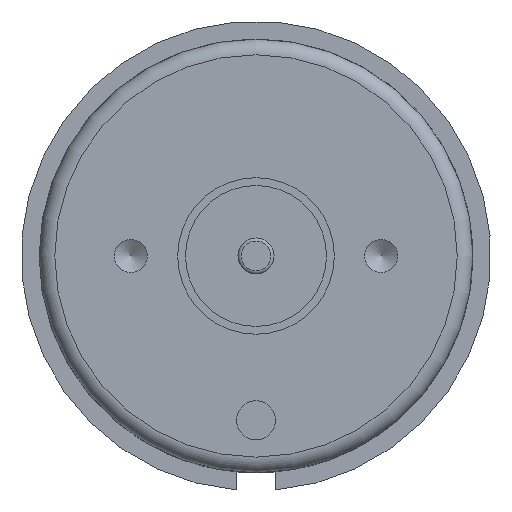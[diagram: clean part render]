
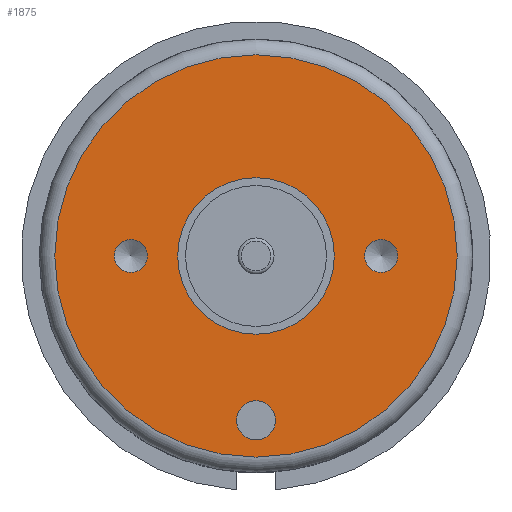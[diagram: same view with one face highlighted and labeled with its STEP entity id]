
A CAD part, front view. The second image highlights one B-rep face of the part: STEP entity #1875.
In plain terms, the highlighted planar face has unit normal (0, -1, 0).
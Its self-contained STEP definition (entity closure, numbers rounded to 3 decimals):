
#44=FACE_BOUND('',#442,.T.);
#45=FACE_BOUND('',#443,.T.);
#46=FACE_BOUND('',#444,.T.);
#47=FACE_BOUND('',#445,.T.);
#123=PLANE('',#2092);
#303=FACE_OUTER_BOUND('',#441,.T.);
#441=EDGE_LOOP('',(#1725));
#442=EDGE_LOOP('',(#1726));
#443=EDGE_LOOP('',(#1727));
#444=EDGE_LOOP('',(#1728));
#445=EDGE_LOOP('',(#1729));
#825=CIRCLE('',#2032,1.25);
#837=CIRCLE('',#2070,1.057);
#839=CIRCLE('',#2074,1.057);
#845=CIRCLE('',#2084,5.);
#846=CIRCLE('',#2087,12.85);
#970=VERTEX_POINT('',#3024);
#992=VERTEX_POINT('',#3114);
#995=VERTEX_POINT('',#3123);
#1000=VERTEX_POINT('',#3140);
#1001=VERTEX_POINT('',#3145);
#1184=EDGE_CURVE('',#970,#970,#825,.T.);
#1226=EDGE_CURVE('',#992,#992,#837,.T.);
#1230=EDGE_CURVE('',#995,#995,#839,.T.);
#1239=EDGE_CURVE('',#1000,#1000,#845,.T.);
#1240=EDGE_CURVE('',#1001,#1001,#846,.T.);
#1725=ORIENTED_EDGE('',*,*,#1240,.F.);
#1726=ORIENTED_EDGE('',*,*,#1184,.T.);
#1727=ORIENTED_EDGE('',*,*,#1226,.T.);
#1728=ORIENTED_EDGE('',*,*,#1230,.T.);
#1729=ORIENTED_EDGE('',*,*,#1239,.T.);
#1875=ADVANCED_FACE('',(#303,#44,#45,#46,#47),#123,.T.);
#2032=AXIS2_PLACEMENT_3D('',#3025,#2486,#2487);
#2070=AXIS2_PLACEMENT_3D('',#3115,#2592,#2593);
#2074=AXIS2_PLACEMENT_3D('',#3124,#2602,#2603);
#2084=AXIS2_PLACEMENT_3D('',#3142,#2625,#2626);
#2087=AXIS2_PLACEMENT_3D('',#3146,#2631,#2632);
#2092=AXIS2_PLACEMENT_3D('',#3155,#2643,#2644);
#2486=DIRECTION('center_axis',(0.,1.,0.));
#2487=DIRECTION('ref_axis',(-1.,0.,0.));
#2592=DIRECTION('center_axis',(0.,1.,0.));
#2593=DIRECTION('ref_axis',(1.,0.,0.));
#2602=DIRECTION('center_axis',(0.,1.,0.));
#2603=DIRECTION('ref_axis',(1.,0.,0.));
#2625=DIRECTION('center_axis',(0.,1.,0.));
#2626=DIRECTION('ref_axis',(-1.,0.,0.));
#2631=DIRECTION('center_axis',(0.,1.,0.));
#2632=DIRECTION('ref_axis',(1.,0.,0.));
#2643=DIRECTION('center_axis',(0.,-1.,0.));
#2644=DIRECTION('ref_axis',(0.,0.,-1.));
#3024=CARTESIAN_POINT('',(1.25,0.,-10.5));
#3025=CARTESIAN_POINT('Origin',(0.,0.,-10.5));
#3114=CARTESIAN_POINT('',(-9.057,0.,0.));
#3115=CARTESIAN_POINT('Origin',(-8.,0.,0.));
#3123=CARTESIAN_POINT('',(6.944,0.,0.));
#3124=CARTESIAN_POINT('Origin',(8.,0.,0.));
#3140=CARTESIAN_POINT('',(5.,0.,0.));
#3142=CARTESIAN_POINT('Origin',(0.,0.,0.));
#3145=CARTESIAN_POINT('',(0.,0.,12.85));
#3146=CARTESIAN_POINT('Origin',(0.,0.,0.));
#3155=CARTESIAN_POINT('Origin',(0.,0.,0.));
